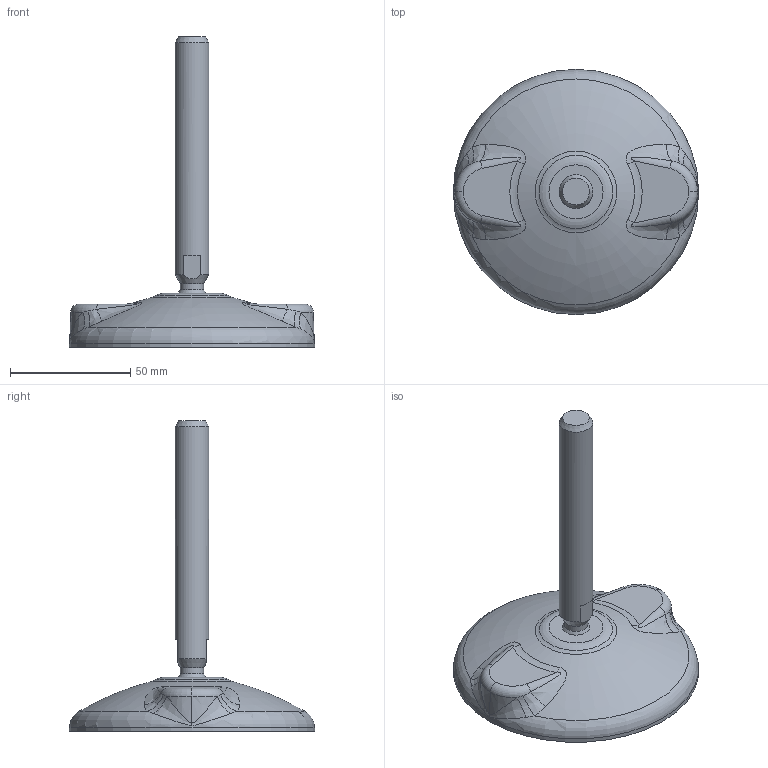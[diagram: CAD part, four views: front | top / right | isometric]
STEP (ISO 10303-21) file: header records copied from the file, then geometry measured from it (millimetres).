
FILE_DESCRIPTION((''),'2;1');
FILE_NAME('E:\DISEGNI\LIBRERIE_3D\PIEDI\LEVEL_STEP\38_83178.STP','2016-02-16T12:56:05',(''),(''),'STEP Write','Mastercam X5 ... CNC Software, Inc.','');
FILE_SCHEMA(('AUTOMOTIVE_DESIGN'));
Length unit declared in the file: millimetre
Products named in the file (1): None
Bounding box: 102.01 x 102.01 x 129.15 mm (x, y, z)
Volume: 114110.5 mm3; surface area: 26903.4 mm2
Topology: 2 solids, 3 shells, 64 faces, 144 edges, 90 vertices
Faces by surface type: plane 16, bspline 16, cylinder 10, torus 10, cone 9, sphere 3
Full cylindrical faces by diameter (mm): 6.5 x2, 9.7 x1, 10.5 x2, 14 x1
Entity records: 3312 total; most frequent: CARTESIAN_POINT 2095, DIRECTION 240, ORIENTED_EDGE 222, AXIS2_PLACEMENT_3D 114, EDGE_CURVE 111, EDGE_LOOP 86, VERTEX_POINT 75, CIRCLE 66
